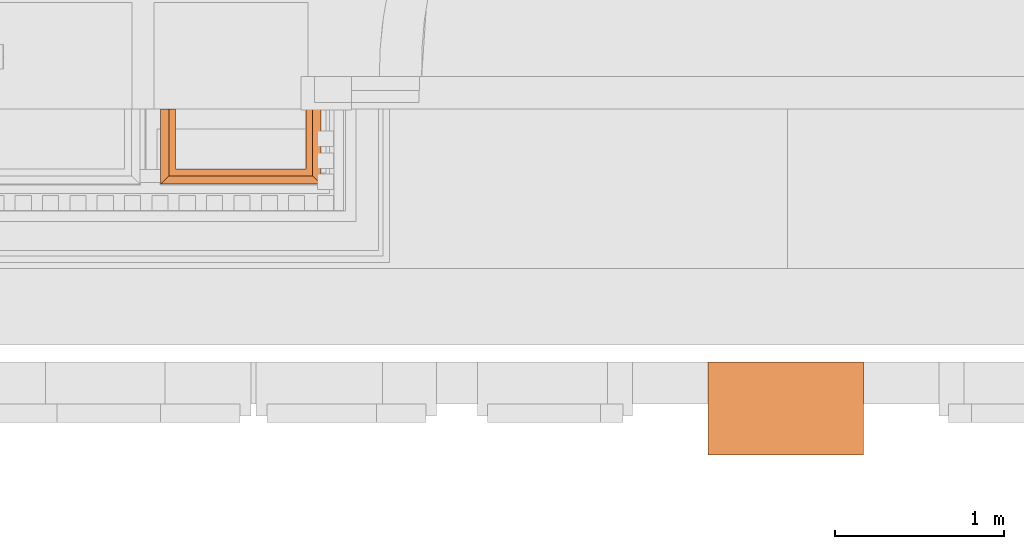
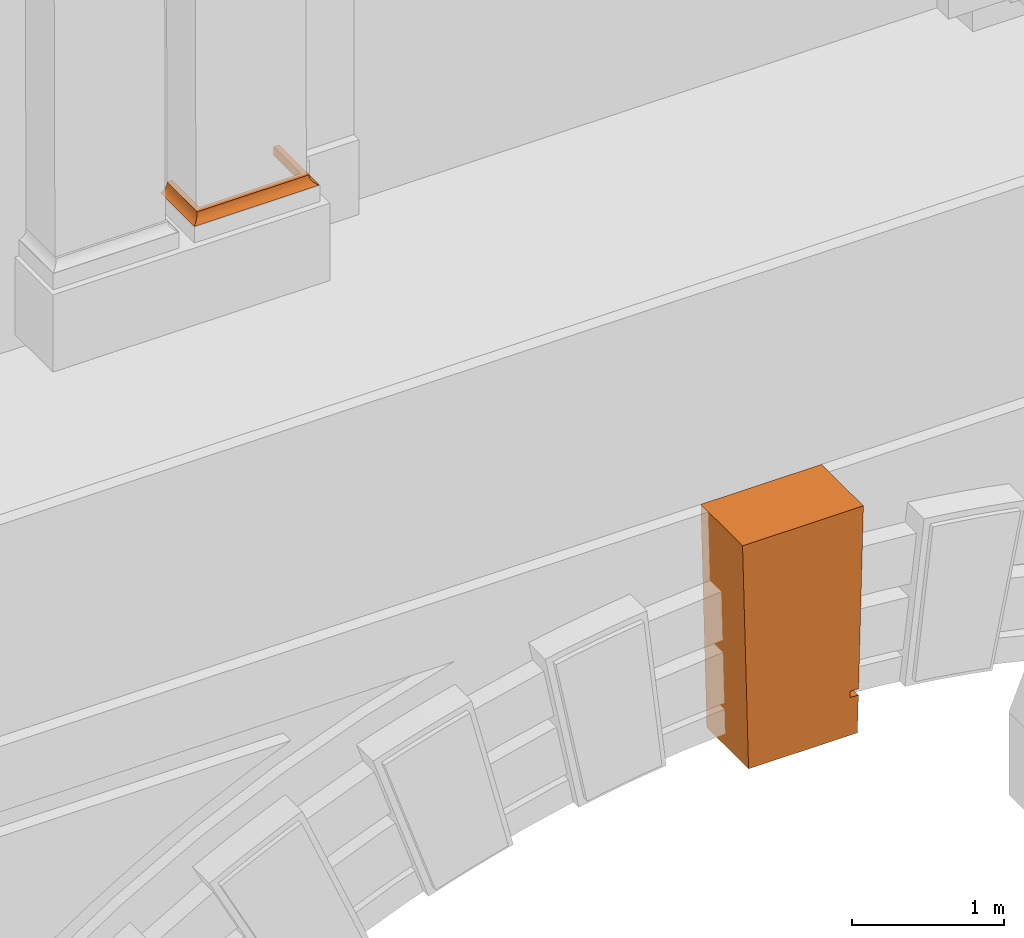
# One storey, part 29 of 44: 2 proxies.
"""IFC2X3 building model written with IfcOpenShell, lengths in metres."""

from ifc_helpers import new_model, entity, si_unit, converted_unit, derived_unit, direction, frame, origin, place, context, subcontext, project, spatial, faceted_brep, material, element, save


model = new_model("IFC2X3")

# Units and contexts
model_context = context("Model", 3, precision=1e-05, world=origin(), true_north=direction((6.12303176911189e-17, 1.0)))
body_context = subcontext(model_context, "Body", "Model", "MODEL_VIEW")
ifc_project = project(units=[si_unit("LENGTHUNIT", "METRE"), si_unit("AREAUNIT", "SQUARE_METRE"), si_unit("VOLUMEUNIT", "CUBIC_METRE"), converted_unit("PLANEANGLEUNIT", "DEGREE", entity("IfcRatioMeasure", 0.0174532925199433), si_unit("PLANEANGLEUNIT", "RADIAN"), dimensions=[0, 0, 0, 0, 0, 0, 0]), si_unit("MASSUNIT", "GRAM", prefix="KILO"), derived_unit("MASSDENSITYUNIT", [(si_unit("MASSUNIT", "GRAM", prefix="KILO"), 1), (si_unit("LENGTHUNIT", "METRE"), -3)]), si_unit("TIMEUNIT", "SECOND"), si_unit("FREQUENCYUNIT", "HERTZ"), si_unit("THERMODYNAMICTEMPERATUREUNIT", "DEGREE_CELSIUS"), derived_unit("THERMALTRANSMITTANCEUNIT", [(si_unit("MASSUNIT", "GRAM", prefix="KILO"), 1), (si_unit("THERMODYNAMICTEMPERATUREUNIT", "KELVIN"), -1), (si_unit("TIMEUNIT", "SECOND"), -3)]), derived_unit("VOLUMETRICFLOWRATEUNIT", [(si_unit("LENGTHUNIT", "METRE"), 3), (si_unit("TIMEUNIT", "SECOND"), -1)]), si_unit("ELECTRICCURRENTUNIT", "AMPERE"), si_unit("ELECTRICVOLTAGEUNIT", "VOLT"), si_unit("POWERUNIT", "WATT"), si_unit("FORCEUNIT", "NEWTON", prefix="KILO"), si_unit("ILLUMINANCEUNIT", "LUX"), si_unit("LUMINOUSFLUXUNIT", "LUMEN"), si_unit("LUMINOUSINTENSITYUNIT", "CANDELA"), derived_unit("USERDEFINED", [(si_unit("MASSUNIT", "GRAM", prefix="KILO"), -1), (si_unit("LENGTHUNIT", "METRE"), -2), (si_unit("TIMEUNIT", "SECOND"), 3), (si_unit("LUMINOUSFLUXUNIT", "LUMEN"), 1)]), derived_unit("LINEARVELOCITYUNIT", [(si_unit("LENGTHUNIT", "METRE"), 1), (si_unit("TIMEUNIT", "SECOND"), -1)]), si_unit("PRESSUREUNIT", "PASCAL"), derived_unit("USERDEFINED", [(si_unit("LENGTHUNIT", "METRE"), -2), (si_unit("MASSUNIT", "GRAM", prefix="KILO"), 1), (si_unit("TIMEUNIT", "SECOND"), -2)])], contexts=[model_context])

# Site, building, storey
site_placement = place(None, origin())
site = spatial("IfcSite", under=ifc_project, at=site_placement, Name="Default", CompositionType="ELEMENT")
building_placement = place(site_placement, origin())
building = spatial("IfcBuilding", under=site, at=building_placement, CompositionType="ELEMENT")
storey_placement = place(building_placement, origin())
storey = spatial("IfcBuildingStorey", under=building, at=storey_placement, Name="Livello 1", CompositionType="ELEMENT", Elevation=0.0)

# Proxies
ifc_material = material(Name="Piperno")
proxy_1_placement = place(storey_placement, frame((-0.543899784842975, -0.784467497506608, 9.55915931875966)))
element("IfcBuildingElementProxy", 1, at=proxy_1_placement, inside=storey, material=ifc_material, Name="Stratigrafia", context=body_context, shape_type="Brep", body=[
    faceted_brep([(0.918563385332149, 0.0, 1.80761623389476), (0.0, 0.0, 1.80761623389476), (0.0455733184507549, 0.0, 0.0), (0.872990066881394, 0.0, 0.0), (0.880561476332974, 0.0, 0.300311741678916), (0.848366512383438, 0.0, 0.301897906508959), (0.816165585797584, 0.0, 0.303358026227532), (0.818756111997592, 0.0, 0.353292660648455), (0.850291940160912, 0.0, 0.351862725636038), (0.881822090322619, 0.0, 0.350312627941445), (0.0455733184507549, 0.55, 0.0), (0.0, 0.55, 1.80761623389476), (0.918563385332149, 0.55, 1.80761623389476), (0.872990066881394, 0.55, 0.0), (0.881822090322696, 0.271433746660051, 0.350312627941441), (0.881822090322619, 0.470061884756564, 0.350312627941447), (0.880561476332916, 0.470061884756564, 0.300311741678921), (0.880561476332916, 0.272034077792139, 0.300311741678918), (0.850292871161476, 0.470061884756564, 0.351862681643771), (0.81875611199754, 0.470061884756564, 0.353292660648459), (0.816165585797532, 0.470061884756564, 0.303358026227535), (0.848367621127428, 0.470061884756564, 0.301897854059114), (0.848305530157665, 0.237723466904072, 0.301900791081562), (0.816165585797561, 0.198027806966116, 0.303358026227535), (0.818756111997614, 0.198628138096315, 0.353292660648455), (0.850459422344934, 0.227669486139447, 0.351854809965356)], [[[0, 1, 2, 3, 4, 5, 6, 7, 8, 9]], [[10, 11, 12, 13]], [[1, 0, 12, 11]], [[2, 1, 11, 10]], [[3, 2, 10, 13]], [[0, 9, 14, 15, 16, 17, 4, 3, 13, 12]], [[18, 19, 20, 21, 16, 15]], [[22, 4, 17]], [[20, 22, 21]], [[4, 22, 5]], [[23, 6, 5]], [[22, 20, 23]], [[17, 21, 22]], [[5, 22, 23]], [[17, 16, 21]], [[7, 6, 23, 20, 19, 24]], [[8, 25, 9]], [[15, 14, 18]], [[25, 19, 18]], [[25, 8, 24]], [[19, 25, 24]], [[8, 7, 24]], [[14, 25, 18]], [[9, 25, 14]]]),
])
proxy_2_placement = place(storey_placement, frame((-3.78604967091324, 0.815415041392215, 14.0944886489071)))
element("IfcBuildingElementProxy", 2, at=proxy_2_placement, inside=storey, Name="Stratigrafia", context=body_context, shape_type="Brep", body=[
    faceted_brep([(0.860981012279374, 0.447957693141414, 0.0015952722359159), (0.860981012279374, 0.447957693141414, 0.0725246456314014), (0.900981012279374, 0.447957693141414, 0.0725246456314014), (0.90198435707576, 0.447957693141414, 0.057057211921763), (0.906320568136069, 0.447957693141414, 0.0421761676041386), (0.913782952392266, 0.447957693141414, 0.028590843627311), (0.924015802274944, 0.447957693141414, 0.0169488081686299), (0.936531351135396, 0.447957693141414, 0.00780499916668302), (0.950733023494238, 0.447957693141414, 0.0015952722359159), (0.0015952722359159, 0.447957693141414, 0.0015952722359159), (0.0157969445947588, 0.447957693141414, 0.00780499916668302), (0.0283124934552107, 0.447957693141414, 0.0169488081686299), (0.038545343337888, 0.447957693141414, 0.028590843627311), (0.0460077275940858, 0.447957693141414, 0.0421761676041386), (0.0503439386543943, 0.447957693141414, 0.057057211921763), (0.0513472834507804, 0.447957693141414, 0.0725246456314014), (0.0913472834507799, 0.447957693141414, 0.0725246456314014), (0.0913472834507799, 0.447957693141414, 0.0015952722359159), (0.90198435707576, 0.0503439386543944, 0.057057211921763), (0.906320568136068, 0.0460077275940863, 0.0421761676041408), (0.913782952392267, 0.0385453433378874, 0.028590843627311), (0.900981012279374, 0.0513472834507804, 0.0725246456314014), (0.924015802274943, 0.0283124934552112, 0.0169488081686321), (0.936531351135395, 0.0157969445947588, 0.00780499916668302), (0.950733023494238, 0.00159527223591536, 0.0015952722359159), (0.590003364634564, 0.00159527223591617, 0.0015952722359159), (0.0015952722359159, 0.00159527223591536, 0.0015952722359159), (0.0913472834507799, 0.0913472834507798, 0.0015952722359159), (0.860981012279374, 0.0913472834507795, 0.0015952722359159), (0.860981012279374, 0.0913472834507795, 0.0725246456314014), (0.0513472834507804, 0.0513472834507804, 0.0725246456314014), (0.312572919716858, 0.0513472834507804, 0.0725246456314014), (0.0913472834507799, 0.0913472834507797, 0.0725246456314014), (0.572423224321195, 0.0334274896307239, 0.0221280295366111), (0.0157969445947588, 0.0157969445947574, 0.00780499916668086), (0.476164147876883, 0.0424788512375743, 0.0348723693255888), (0.0503439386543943, 0.0503439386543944, 0.057057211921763), (0.476164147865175, 0.0502370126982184, 0.0564642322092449), (0.476164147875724, 0.0218065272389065, 0.0116734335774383), (0.0460077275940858, 0.0460077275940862, 0.0421761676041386), (0.0283124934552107, 0.0283124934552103, 0.0169488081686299), (0.038545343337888, 0.0385453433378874, 0.028590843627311)], [[[0, 1, 2, 3, 4, 5, 6, 7, 8]], [[9, 10, 11, 12, 13, 14, 15, 16, 17]], [[4, 3, 18, 19]], [[5, 4, 19, 20]], [[21, 18, 3, 2]], [[7, 6, 22, 23]], [[8, 7, 23, 24]], [[6, 5, 20, 22]], [[0, 8, 24, 25, 26, 9, 17, 27, 28]], [[1, 0, 28, 29]], [[16, 15, 30, 31, 21, 2, 1, 29, 32]], [[33, 22, 20]], [[25, 34, 26]], [[23, 25, 24]], [[19, 35, 20]], [[31, 36, 37]], [[31, 37, 21]], [[23, 38, 25]], [[18, 21, 37]], [[39, 37, 36]], [[38, 40, 34]], [[18, 37, 19]], [[37, 35, 19]], [[35, 37, 39]], [[35, 33, 20]], [[38, 34, 25]], [[36, 31, 30]], [[41, 40, 33]], [[38, 33, 40]], [[41, 33, 35]], [[38, 23, 22]], [[35, 39, 41]], [[38, 22, 33]], [[29, 28, 27, 32]], [[12, 41, 39, 13]], [[13, 39, 36, 14]], [[14, 36, 30, 15]], [[9, 26, 34, 10]], [[10, 34, 40, 11]], [[12, 11, 40, 41]], [[32, 27, 17, 16]]]),
])

save(model, "model.ifc")
